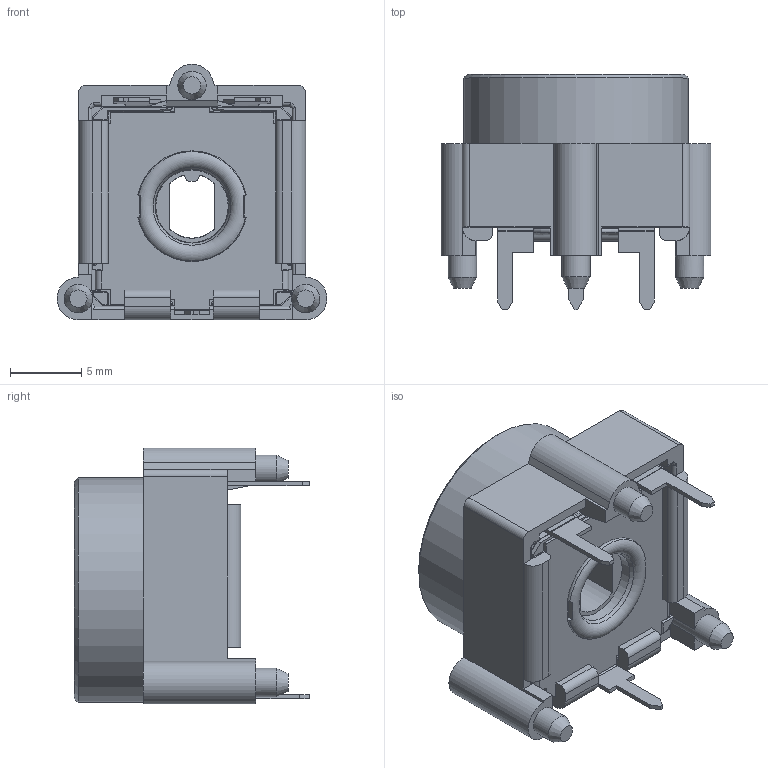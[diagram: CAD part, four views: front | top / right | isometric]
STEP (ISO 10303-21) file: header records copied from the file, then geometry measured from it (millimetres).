
FILE_DESCRIPTION(/* description */ (''),/* implementation_level */ '2;1');
FILE_NAME(/* name */ 'C:\Users\CEM\Desktop\ENVIAR\TRANSICION 3D CATALOGOS\Q16RV15.stp',/* time_stamp */ '2025-11-19T16:05:28+01:00',/* author */ ('CEM'),/* organization */ (''),/* preprocessor_version */ 'ST-DEVELOPER v16.13',/* originating_system */ 'Autodesk Inventor 2018',/* authorisation */ '');
FILE_SCHEMA (('AUTOMOTIVE_DESIGN { 1 0 10303 214 3 1 1 }'));
Length unit declared in the file: millimetre
Products named in the file (1): Q16RV15 Q-V0
Bounding box: 19 x 16.55 x 18 mm (x, y, z)
Volume: 2410.9 mm3; surface area: 2729.7 mm2
Topology: 1 solids, 1 shells, 632 faces, 1799 edges, 1156 vertices
Faces by surface type: plane 488, cylinder 122, cone 15, bspline 4, torus 3
Full cylindrical faces by diameter (mm): 2 x3, 5.5 x1, 5.65 x1, 5.8 x1, 6 x2, 6.87 x1, 15.8 x1
Entity records: 20965 total; most frequent: CARTESIAN_POINT 3737, ORIENTED_EDGE 3536, DIRECTION 3339, EDGE_CURVE 1764, LINE 1399, VECTOR 1399, VERTEX_POINT 1142, AXIS2_PLACEMENT_3D 970
